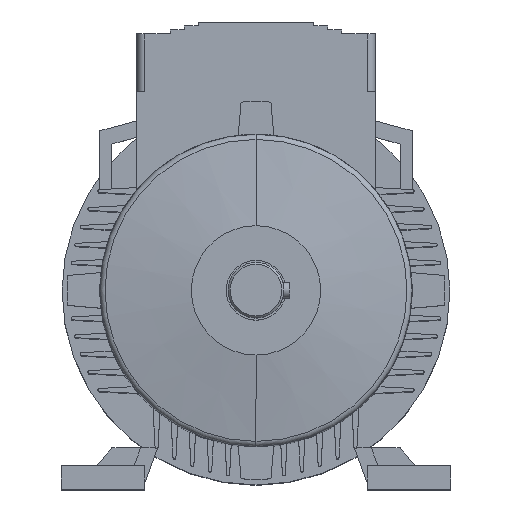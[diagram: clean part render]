
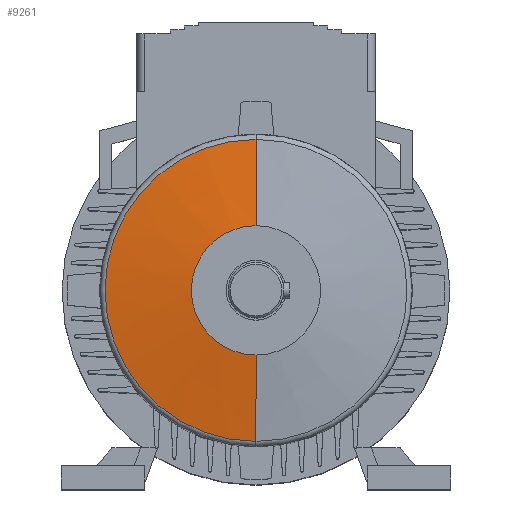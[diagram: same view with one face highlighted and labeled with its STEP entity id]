
A CAD part, top view. The second image highlights one B-rep face of the part: STEP entity #9261.
In plain terms, the highlighted conical face has half-angle 82 degrees and reference radius 54.209 mm.
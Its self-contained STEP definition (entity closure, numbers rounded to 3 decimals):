
#3029=CARTESIAN_POINT('',(0.,0.,21.898));
#3030=DIRECTION('',(0.,0.,1.));
#3031=DIRECTION('',(0.,1.,0.));
#3032=AXIS2_PLACEMENT_3D('',#3029,#3030,#3031);
#3044=DIRECTION('',(0.,-0.99,0.139));
#3045=VECTOR('',#3044,43.844);
#3046=CARTESIAN_POINT('',(0.,75.918,
21.898));
#3047=LINE('',#3046,#3045);
#3048=DIRECTION('',(0.,0.99,0.139));
#3049=VECTOR('',#3048,43.844);
#3050=CARTESIAN_POINT('',(0.,-75.918,
21.898));
#3051=LINE('',#3050,#3049);
#3080=CARTESIAN_POINT('',(0.,0.,28.));
#3081=DIRECTION('',(0.,0.,1.));
#3082=DIRECTION('',(0.,1.,0.));
#3083=AXIS2_PLACEMENT_3D('',#3080,#3081,#3082);
#3859=CARTESIAN_POINT('',(0.,32.5,28.));
#3861=VERTEX_POINT('',#3859);
#3867=CARTESIAN_POINT('',(0.,-32.5,28.));
#3869=VERTEX_POINT('',#3867);
#3936=CARTESIAN_POINT('',(0.,75.918,21.898));
#3937=CARTESIAN_POINT('',(0.,-75.918,
21.898));
#3938=VERTEX_POINT('',#3936);
#3939=VERTEX_POINT('',#3937);
#9247=CARTESIAN_POINT('',(0.,0.,24.949));
#9248=DIRECTION('',(0.,0.,-1.));
#9249=DIRECTION('',(0.,-1.,0.));
#9250=AXIS2_PLACEMENT_3D('',#9247,#9248,#9249);
#9251=CONICAL_SURFACE('',#9250,54.209,82.);
#9252=ORIENTED_EDGE('',*,*,#9237,.F.);
#9254=ORIENTED_EDGE('',*,*,#9253,.T.);
#9256=ORIENTED_EDGE('',*,*,#9255,.T.);
#9258=ORIENTED_EDGE('',*,*,#9257,.F.);
#9259=EDGE_LOOP('',(#9252,#9254,#9256,#9258));
#9260=FACE_OUTER_BOUND('',#9259,.F.);
#9261=ADVANCED_FACE('',(#9260),#9251,.T.);
#3033=CIRCLE('',#3032,75.918);
#3084=CIRCLE('',#3083,32.5);
#9237=EDGE_CURVE('',#3938,#3939,#3033,.T.);
#9253=EDGE_CURVE('',#3938,#3861,#3047,.T.);
#9255=EDGE_CURVE('',#3861,#3869,#3084,.T.);
#9257=EDGE_CURVE('',#3939,#3869,#3051,.T.);
